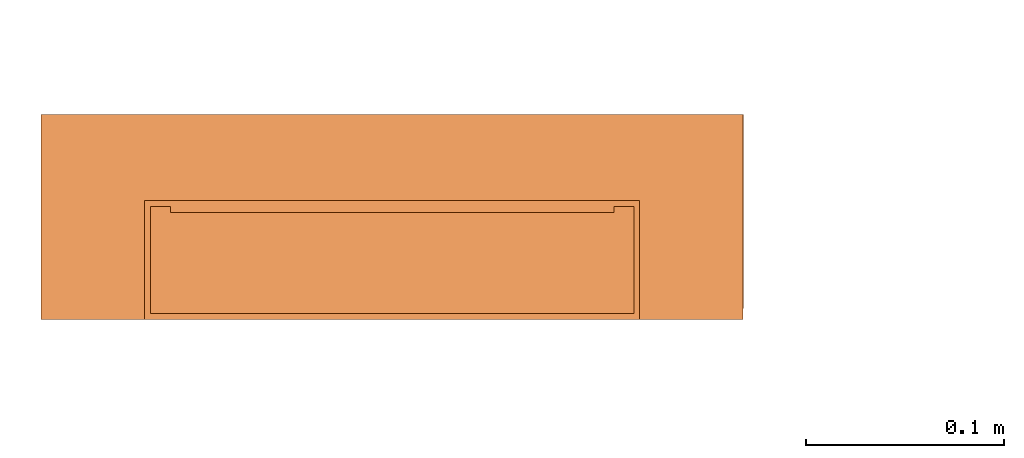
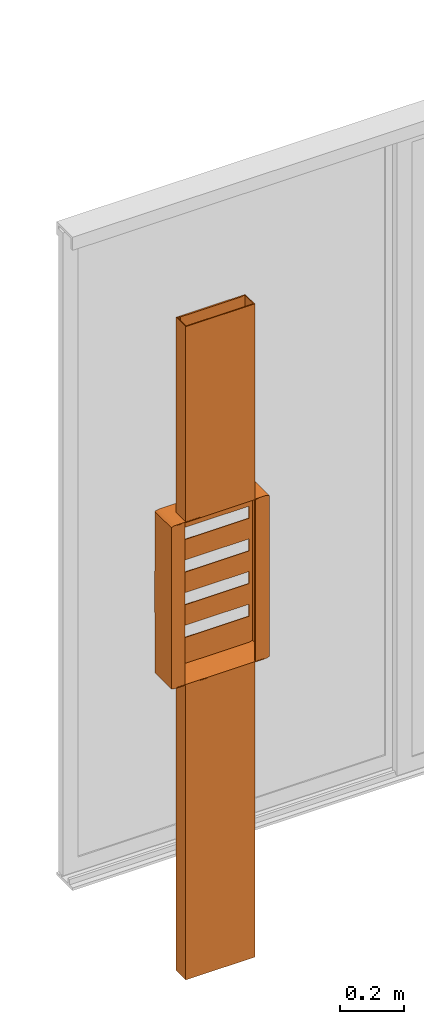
# One storey, part 3 of 3: 1 proxy.
"""IFC2X3 building model written with IfcOpenShell, lengths in metres."""

import ifcopenshell
import ifcopenshell.guid

model = None  # the IFC model being written
_history = None  # IfcOwnerHistory: only IFC2X3 demands one
_inside = {}  # id of a spatial element -> (the spatial element, [elements in it])
_under = {}  # id of a project, library or spatial element -> (it, [spatial elements below it])
_declared = {}  # id of a project -> (the project, [libraries it declares])
_typed = {}  # id of a type object -> (the type object, [elements of that type])
_made_of = {}  # id of a material, layer set ... -> (it, [elements and type objects made of it])


def new_model(schema):
    """Start an empty IFC model of exactly this schema.

    Asked for "IFC4X3", IfcOpenShell would pick the latest addendum, in which some entities
    have other attributes; the version numbers below select the first issue.
    IFC2X3 requires an IfcOwnerHistory on every rooted entity: one is made here for all.
    """
    global model, _history
    if schema == "IFC4X3":
        model = ifcopenshell.file(schema_version=(4, 3, 0, 0))
    else:
        model = ifcopenshell.file(schema=schema)
    _inside.clear()
    _under.clear()
    _declared.clear()
    _typed.clear()
    _made_of.clear()
    _history = None
    if model.schema == "IFC2X3":
        org = make("IfcOrganization", Name="unknown")
        user = make(
            "IfcPersonAndOrganization",
            ThePerson=make("IfcPerson", FamilyName="unknown"),
            TheOrganization=org,
        )
        app = make(
            "IfcApplication",
            ApplicationDeveloper=org,
            Version="unknown",
            ApplicationFullName="unknown",
            ApplicationIdentifier="unknown",
        )
        _history = make(
            "IfcOwnerHistory",
            OwningUser=user,
            OwningApplication=app,
            ChangeAction="ADDED",
            CreationDate=0,
        )
    return model


def make(cls, **values):
    """One entity of the class cls with the attributes given. An attribute that is None is left unset."""
    return model.create_entity(
        cls, **{name: value for name, value in values.items() if value is not None}
    )


def entity(cls, *values):
    """Any entity or typed value of the class cls, its attributes in the order of the schema. None: left unset."""
    e = model.create_entity(cls)
    for i, value in enumerate(values):
        if value is not None:
            e[i] = value
    return e


def rooted(cls, **values):
    """An entity with a GlobalId (a new one), such as an element, a storey or a relation."""
    return make(cls, GlobalId=ifcopenshell.guid.new(), OwnerHistory=_history, **values)


def si_unit(unit_type, name, prefix=None):
    """IfcSIUnit, for example si_unit("LENGTHUNIT", "METRE", prefix="MILLI")."""
    return make("IfcSIUnit", UnitType=unit_type, Prefix=prefix, Name=name)


def converted_unit(unit_type, name, factor, base, dimensions=None, offset=None):
    """IfcConversionBasedUnit, such as the inch: factor (a typed value) times the base unit."""
    return make(
        "IfcConversionBasedUnit"
        if offset is None
        else "IfcConversionBasedUnitWithOffset",
        ConversionOffset=offset,
        Dimensions=None
        if dimensions is None
        else entity("IfcDimensionalExponents", *dimensions),
        UnitType=unit_type,
        Name=name,
        ConversionFactor=make(
            "IfcMeasureWithUnit", ValueComponent=factor, UnitComponent=base
        ),
    )


def derived_unit(unit_type, elements):
    """IfcDerivedUnit: a product of units, each with its exponent."""
    return make(
        "IfcDerivedUnit",
        Elements=[
            make("IfcDerivedUnitElement", Unit=unit, Exponent=power)
            for unit, power in elements
        ],
        UnitType=unit_type,
    )


def assignment(units):
    """IfcUnitAssignment: the units of a project."""
    return None if units is None else make("IfcUnitAssignment", Units=units)


def point(xyz):
    """IfcCartesianPoint."""
    return None if xyz is None else make("IfcCartesianPoint", Coordinates=xyz)


def direction(xyz):
    """IfcDirection."""
    return None if xyz is None else make("IfcDirection", DirectionRatios=xyz)


def frame(location, z_axis=None, x_axis=None):
    """IfcAxis2Placement3D, a coordinate frame: its origin and axes. An axis left out is left unset."""
    return make(
        "IfcAxis2Placement3D",
        Location=point(location),
        Axis=direction(z_axis),
        RefDirection=direction(x_axis),
    )


def origin():
    """The frame at (0, 0, 0) with its axes left unset."""
    return frame((0.0, 0.0, 0.0))


def place(relative_to, where):
    """IfcLocalPlacement: puts the frame where relative to a parent placement (None: the world)."""
    return make(
        "IfcLocalPlacement", PlacementRelTo=relative_to, RelativePlacement=where
    )


def context(
    kind, dimensions, precision=None, world=None, true_north=None, identifier=None
):
    """IfcGeometricRepresentationContext, for example the 3D "Model" context."""
    return make(
        "IfcGeometricRepresentationContext",
        ContextIdentifier=identifier,
        ContextType=kind,
        CoordinateSpaceDimension=dimensions,
        Precision=precision,
        WorldCoordinateSystem=world,
        TrueNorth=true_north,
    )


def subcontext(parent, identifier, kind, view, scale=None):
    """IfcGeometricRepresentationSubContext, for example "Body" below "Model"."""
    return make(
        "IfcGeometricRepresentationSubContext",
        ContextIdentifier=identifier,
        ContextType=kind,
        ParentContext=parent,
        TargetScale=scale,
        TargetView=view,
    )


def project(units=None, contexts=None):
    """IfcProject with its units and contexts."""
    return rooted(
        "IfcProject",
        Name="project",
        RepresentationContexts=contexts,
        UnitsInContext=assignment(units),
    )


def spatial(cls, under=None, at=None, **own):
    """A site, building, storey or space (cls), placed at a placement, below another one or the project."""
    s = rooted(cls, ObjectPlacement=at, **own)
    if under is not None:
        _under.setdefault(under.id(), (under, []))[1].append(s)
    return s


def faces_of(points, faces, orient=None, outer=None):
    """IfcFace entities. A face is a list of loops; a loop is a list of indices into points, from 0.

    orient and outer hold one flag for each loop. By default every Orientation is true, the
    first loop of a face is its IfcFaceOuterBound and the others are IfcFaceBound.
    """
    made = []
    for i, loops in enumerate(faces):
        bounds = []
        for j, loop in enumerate(loops):
            is_outer = j == 0 if outer is None else outer[i][j]
            bounds.append(
                make(
                    "IfcFaceOuterBound" if is_outer else "IfcFaceBound",
                    Bound=make("IfcPolyLoop", Polygon=[points[k] for k in loop]),
                    Orientation=True if orient is None else orient[i][j],
                )
            )
        made.append(make("IfcFace", Bounds=bounds))
    return made


def faceted_brep(points, faces, orient=None, outer=None, voids=None):
    """IfcFacetedBrep: a solid bounded by flat faces; with voids (closed shells), ...WithVoids."""
    shared = [point(p) for p in points]
    hull = make("IfcClosedShell", CfsFaces=faces_of(shared, faces, orient, outer))
    if voids is None:
        return make("IfcFacetedBrep", Outer=hull)
    return make(
        "IfcFacetedBrepWithVoids",
        Outer=hull,
        Voids=[
            make(cls, CfsFaces=faces_of(shared, fs, o, b)) for cls, fs, o, b in voids
        ],
    )


def shape(context_of_items, identifier, shape_type, items):
    """IfcShapeRepresentation: the items that make up one representation, for example the "Body"."""
    return make(
        "IfcShapeRepresentation",
        ContextOfItems=context_of_items,
        RepresentationIdentifier=identifier,
        RepresentationType=shape_type,
        Items=items,
    )


def source(mapping_origin, context_of_items, identifier, shape_type, items):
    """IfcRepresentationMap: a shape defined once, which mapped items show again and again."""
    return make(
        "IfcRepresentationMap",
        MappingOrigin=mapping_origin,
        MappedRepresentation=shape(context_of_items, identifier, shape_type, items),
    )


def transform(
    local_origin,
    x_axis=None,
    y_axis=None,
    z_axis=None,
    scale=None,
    scale2=None,
    scale3=None,
    uniform=True,
):
    """IfcCartesianTransformationOperator3D, or its non-uniform kind. x_axis, y_axis, z_axis: its Axis1, 2, 3."""
    if uniform:
        return make(
            "IfcCartesianTransformationOperator3D",
            Axis1=direction(x_axis),
            Axis2=direction(y_axis),
            LocalOrigin=point(local_origin),
            Scale=scale,
            Axis3=direction(z_axis),
        )
    return make(
        "IfcCartesianTransformationOperator3DnonUniform",
        Axis1=direction(x_axis),
        Axis2=direction(y_axis),
        LocalOrigin=point(local_origin),
        Scale=scale,
        Axis3=direction(z_axis),
        Scale2=scale2,
        Scale3=scale3,
    )


def mapped(mapping_source, mapping_target):
    """IfcMappedItem: shows the shape of a source again, moved by a transform."""
    return make(
        "IfcMappedItem", MappingSource=mapping_source, MappingTarget=mapping_target
    )


def material(Name=None, Category=None):
    """IfcMaterial."""
    return make("IfcMaterial", Name=Name, Category=Category)


def made_of(thing, what):
    """Note that an element or type object is made of a material, layer set ...; save() writes the relation."""
    if what is not None:
        _made_of.setdefault(what.id(), (what, []))[1].append(thing)
    return thing


def type_object(cls, material=None, **own):
    """A type object (cls), such as IfcWallType, which elements share."""
    return made_of(rooted(cls, **own), material)


def type_shapes(of_type, sources):
    """Give a type object the sources (RepresentationMaps) that its elements show as mapped items."""
    of_type.RepresentationMaps = sources


def element(
    cls,
    number,
    at=None,
    inside=None,
    cuts=None,
    type_object=None,
    material=None,
    context=None,
    identifier="Body",
    shape_type=None,
    held_by="IfcProductDefinitionShape",
    body=None,
    shapes=None,
    **own,
):
    """One element of the class cls, such as IfcWall. Its Tag is "e" and its number.

    at: its placement. inside: the storey or other place that contains it. cuts: it is an
    opening in that element (IfcRelVoidsElement). A single representation is given by context,
    identifier, shape_type and body (its items); several are given by shapes. held_by: the class
    of the entity that holds the representations. save() writes the other relations.
    """
    e = rooted(cls, Tag="e%d" % number, ObjectPlacement=at, **own)
    if body is not None:
        shapes = [shape(context, identifier, shape_type, body)]
    if shapes is not None:
        e.Representation = make(held_by, Representations=shapes)
    if inside is not None:
        _inside.setdefault(inside.id(), (inside, []))[1].append(e)
    if cuts is not None:
        rooted(
            "IfcRelVoidsElement", RelatingBuildingElement=cuts, RelatedOpeningElement=e
        )
    if type_object is not None:
        _typed.setdefault(type_object.id(), (type_object, []))[1].append(e)
    return made_of(e, material)


def aggregate(whole, parts):
    """IfcRelAggregates: a whole, such as a stair, and the parts it consists of."""
    return rooted("IfcRelAggregates", RelatingObject=whole, RelatedObjects=parts)


def save(model, path):
    """Write the relations noted so far, then the file.

    IfcRelAggregates (storeys below a building ...), IfcRelContainedInSpatialStructure (elements
    in a storey), IfcRelDefinesByType, IfcRelAssociatesMaterial and IfcRelDeclares: one each for
    every whole, place, type object, material and project.
    """
    for whole, parts in _under.values():
        aggregate(whole, parts)
    for where, things in _inside.values():
        rooted(
            "IfcRelContainedInSpatialStructure",
            RelatedElements=things,
            RelatingStructure=where,
        )
    for kind, things in _typed.values():
        rooted("IfcRelDefinesByType", RelatedObjects=things, RelatingType=kind)
    for what, things in _made_of.values():
        rooted("IfcRelAssociatesMaterial", RelatedObjects=things, RelatingMaterial=what)
    for by, libraries in _declared.values():
        rooted("IfcRelDeclares", RelatingContext=by, RelatedDefinitions=libraries)
    model.write(path)


model = new_model("IFC2X3")

# Units and contexts
model_context = context("Model", 3, precision=1e-05, world=origin(), true_north=direction((6.123031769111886e-17, 1.0)))
body_context = subcontext(model_context, "Body", "Model", "MODEL_VIEW")
ifc_project = project(units=[si_unit("LENGTHUNIT", "METRE"), si_unit("AREAUNIT", "SQUARE_METRE"), si_unit("VOLUMEUNIT", "CUBIC_METRE"), converted_unit("PLANEANGLEUNIT", "DEGREE", entity("IfcRatioMeasure", 0.017453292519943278), si_unit("PLANEANGLEUNIT", "RADIAN"), dimensions=[0, 0, 0, 0, 0, 0, 0]), si_unit("MASSUNIT", "GRAM", prefix="KILO"), derived_unit("MASSDENSITYUNIT", [(si_unit("MASSUNIT", "GRAM", prefix="KILO"), 1), (si_unit("LENGTHUNIT", "METRE"), -3)]), derived_unit("IONCONCENTRATIONUNIT", [(si_unit("MASSUNIT", "GRAM", prefix="KILO"), 1), (si_unit("LENGTHUNIT", "METRE"), -3)]), derived_unit("MOMENTOFINERTIAUNIT", [(si_unit("LENGTHUNIT", "METRE"), 4)]), si_unit("TIMEUNIT", "SECOND"), si_unit("FREQUENCYUNIT", "HERTZ"), si_unit("THERMODYNAMICTEMPERATUREUNIT", "DEGREE_CELSIUS"), derived_unit("THERMALTRANSMITTANCEUNIT", [(si_unit("MASSUNIT", "GRAM", prefix="KILO"), 1), (si_unit("THERMODYNAMICTEMPERATUREUNIT", "KELVIN"), -1), (si_unit("TIMEUNIT", "SECOND"), -3)]), derived_unit("THERMALCONDUCTANCEUNIT", [(si_unit("MASSUNIT", "GRAM", prefix="KILO"), 1), (si_unit("THERMODYNAMICTEMPERATUREUNIT", "KELVIN"), -1), (si_unit("TIMEUNIT", "SECOND"), -3), (si_unit("LENGTHUNIT", "METRE"), 1)]), derived_unit("VOLUMETRICFLOWRATEUNIT", [(si_unit("LENGTHUNIT", "METRE"), 3), (si_unit("TIMEUNIT", "SECOND"), -1)]), derived_unit("MASSFLOWRATEUNIT", [(si_unit("MASSUNIT", "GRAM", prefix="KILO"), 1), (si_unit("TIMEUNIT", "SECOND"), -1)]), derived_unit("ROTATIONALFREQUENCYUNIT", [(si_unit("TIMEUNIT", "SECOND"), -1)]), si_unit("ELECTRICCURRENTUNIT", "AMPERE"), si_unit("ELECTRICVOLTAGEUNIT", "VOLT"), si_unit("POWERUNIT", "WATT"), si_unit("FORCEUNIT", "NEWTON", prefix="KILO"), si_unit("ILLUMINANCEUNIT", "LUX"), si_unit("LUMINOUSFLUXUNIT", "LUMEN"), si_unit("LUMINOUSINTENSITYUNIT", "CANDELA"), derived_unit("USERDEFINED", [(si_unit("MASSUNIT", "GRAM", prefix="KILO"), -1), (si_unit("LENGTHUNIT", "METRE"), -2), (si_unit("TIMEUNIT", "SECOND"), 3), (si_unit("LUMINOUSFLUXUNIT", "LUMEN"), 1)]), derived_unit("USERDEFINED", [(si_unit("MASSUNIT", "GRAM", prefix="KILO"), 1), (si_unit("TIMEUNIT", "SECOND"), -3), (si_unit("LENGTHUNIT", "METRE"), 3), (si_unit("ELECTRICCURRENTUNIT", "AMPERE"), -2)]), derived_unit("SOUNDPOWERUNIT", [(si_unit("MASSUNIT", "GRAM", prefix="KILO"), 1), (si_unit("TIMEUNIT", "SECOND"), -3), (si_unit("LENGTHUNIT", "METRE"), 2)]), derived_unit("SOUNDPRESSUREUNIT", [(si_unit("MASSUNIT", "GRAM", prefix="KILO"), 1), (si_unit("LENGTHUNIT", "METRE"), -1), (si_unit("TIMEUNIT", "SECOND"), -2)]), derived_unit("LINEARVELOCITYUNIT", [(si_unit("LENGTHUNIT", "METRE"), 1), (si_unit("TIMEUNIT", "SECOND"), -1)]), si_unit("PRESSUREUNIT", "PASCAL"), derived_unit("USERDEFINED", [(si_unit("MASSUNIT", "GRAM", prefix="KILO"), 1), (si_unit("LENGTHUNIT", "METRE"), -2), (si_unit("TIMEUNIT", "SECOND"), -2)]), derived_unit("LINEARFORCEUNIT", [(si_unit("MASSUNIT", "GRAM", prefix="KILO"), 1), (si_unit("TIMEUNIT", "SECOND"), -2)]), derived_unit("PLANARFORCEUNIT", [(si_unit("MASSUNIT", "GRAM", prefix="KILO"), 1), (si_unit("LENGTHUNIT", "METRE"), -1), (si_unit("TIMEUNIT", "SECOND"), -2)]), derived_unit("SPECIFICHEATCAPACITYUNIT", [(si_unit("THERMODYNAMICTEMPERATUREUNIT", "KELVIN"), -1), (si_unit("LENGTHUNIT", "METRE"), 2), (si_unit("TIMEUNIT", "SECOND"), -2)]), derived_unit("HEATINGVALUEUNIT", [(si_unit("LENGTHUNIT", "METRE"), 2), (si_unit("TIMEUNIT", "SECOND"), -2)]), derived_unit("VAPORPERMEABILITYUNIT", [(si_unit("LENGTHUNIT", "METRE"), -1), (si_unit("TIMEUNIT", "SECOND"), 1)]), derived_unit("DYNAMICVISCOSITYUNIT", [(si_unit("MASSUNIT", "GRAM", prefix="KILO"), 1), (si_unit("TIMEUNIT", "SECOND"), -1), (si_unit("LENGTHUNIT", "METRE"), -1)]), derived_unit("THERMALEXPANSIONCOEFFICIENTUNIT", [(si_unit("THERMODYNAMICTEMPERATUREUNIT", "KELVIN"), -1)]), derived_unit("MODULUSOFELASTICITYUNIT", [(si_unit("MASSUNIT", "GRAM", prefix="KILO"), 1), (si_unit("LENGTHUNIT", "METRE"), -1), (si_unit("TIMEUNIT", "SECOND"), -2)]), derived_unit("ISOTHERMALMOISTURECAPACITYUNIT", [(si_unit("LENGTHUNIT", "METRE"), 3), (si_unit("MASSUNIT", "GRAM", prefix="KILO"), -1)]), derived_unit("MOISTUREDIFFUSIVITYUNIT", [(si_unit("TIMEUNIT", "SECOND"), -1), (si_unit("LENGTHUNIT", "METRE"), 2)])], contexts=[model_context])

# Site, building, storey, space
site_placement = place(None, frame((1.2553507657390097, -0.6266432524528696, -1.0397761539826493), z_axis=(0.0, 0.0, 1.0), x_axis=(-1.0, 0.0, 0.0)))
site = spatial("IfcSite", under=ifc_project, at=site_placement, Name="Default", CompositionType="ELEMENT")
building_placement = place(site_placement, origin())
building = spatial("IfcBuilding", under=site, at=building_placement, Name="MAISON D'HABITATION", CompositionType="ELEMENT")
storey_placement = place(building_placement, frame((0.0, 0.0, 1.0397761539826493)))
storey = spatial("IfcBuildingStorey", under=building, at=storey_placement, Name="site", CompositionType="ELEMENT", Elevation=1.0397761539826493)
space_placement = place(storey_placement, origin())
space = spatial("IfcSpace", under=storey, at=space_placement, Name="06", CompositionType="ELEMENT", InteriorOrExteriorSpace="INTERNAL")

# Proxy
ifc_material = material(Name="<Unnamed>")
building_element_proxy_type = type_object("IfcBuildingElementProxyType", Name="tableau electrique:tableau electrique", PredefinedType="NOTDEFINED", material=ifc_material)
shared_shape = source(origin(), body_context, "Body", "Brep", [
    faceted_brep([(-0.15925032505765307, -0.015799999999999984, 1.128218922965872), (-0.15925032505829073, 0.0, 1.1282189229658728), (0.0, 0.0, 1.1279884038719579), (0.0, -0.10350000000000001, 1.1279884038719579), (-0.15925038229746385, -0.10350000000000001, 1.128218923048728), (0.15925038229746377, -0.10350000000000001, 1.128218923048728), (0.15925032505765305, 0.0, 1.128218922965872), (0.1592503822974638, -0.015799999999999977, 1.128218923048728), (0.15925032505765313, -0.015799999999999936, 1.7527578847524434), (0.1592503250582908, 0.0, 1.7527578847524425), (0.0, 0.0, 1.7529884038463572), (0.0, -0.10349999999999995, 1.7529884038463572), (0.15925038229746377, -0.10349999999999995, 1.7527578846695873), (-0.15925032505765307, 0.0, 1.7527578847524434), (-0.15925038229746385, -0.015799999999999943, 1.7527578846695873), (-0.15925038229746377, -0.10349999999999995, 1.7527578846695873), (-3.6187750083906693e-06, 0.0, 1.1304884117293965), (-0.159246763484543, 0.0, 1.1307189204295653), (-0.159246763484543, -0.10100000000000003, 1.1307189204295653), (-3.618828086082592e-06, -0.10100000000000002, 1.1304884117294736), (0.15924676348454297, 0.0, 1.1307189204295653), (0.159246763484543, -0.101, 1.1307189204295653), (0.1592467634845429, -0.10099999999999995, 1.7502578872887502), (3.6188280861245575e-06, -0.10099999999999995, 1.7504883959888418), (3.618775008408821e-06, 0.0, 1.7504883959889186), (0.15924676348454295, 0.0, 1.7502578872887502), (-0.159246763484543, -0.10099999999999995, 1.7502578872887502), (-0.15924676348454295, 0.0, 1.7502578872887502), (-0.17499999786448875, -0.005349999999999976, 1.4404865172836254), (-0.17478844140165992, -0.005349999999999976, 1.1601430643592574), (-0.17728844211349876, -0.005349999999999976, 1.1601430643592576), (-0.17749999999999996, -0.005349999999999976, 1.4404884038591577), (-0.17728844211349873, -0.005349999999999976, 1.720833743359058), (-0.17478844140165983, -0.005349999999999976, 1.720833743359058), (0.17728844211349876, -0.005349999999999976, 1.720833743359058), (0.1774999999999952, -0.005349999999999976, 1.4404884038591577), (0.17728844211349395, -0.005349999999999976, 1.1601430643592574), (0.1747884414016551, -0.005349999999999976, 1.1601430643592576), (0.17500000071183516, -0.005349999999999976, 1.440486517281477), (0.1747884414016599, -0.005349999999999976, 1.720833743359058), (-0.17728844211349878, -0.015799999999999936, 1.1601430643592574), (-0.17726735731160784, -0.015799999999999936, 1.132202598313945), (-0.17726735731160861, -0.10349999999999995, 1.1322025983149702), (-0.17750000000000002, -0.10349999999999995, 1.4404884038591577), (0.17749999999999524, -0.10350000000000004, 1.440488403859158), (0.17726735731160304, -0.10350000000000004, 1.132202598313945), (0.1772673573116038, -0.015800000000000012, 1.1322025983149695), (0.17728844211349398, -0.015800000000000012, 1.1601430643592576), (0.17728844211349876, -0.015799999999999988, 1.7208337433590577), (0.1772673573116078, -0.015799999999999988, 1.7487742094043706), (0.1772673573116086, -0.10350000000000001, 1.7487742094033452), (-0.17728844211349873, -0.015799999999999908, 1.7208337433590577), (-0.17726735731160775, -0.10349999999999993, 1.7487742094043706), (-0.17726735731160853, -0.015799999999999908, 1.7487742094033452), (-0.17499999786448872, -0.10099999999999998, 1.440486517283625), (-0.174768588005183, -0.10099999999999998, 1.1338343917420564), (-0.174768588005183, -0.015799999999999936, 1.1338343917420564), (-0.17478844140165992, -0.015799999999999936, 1.1601430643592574), (0.17478844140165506, -0.015800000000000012, 1.1601430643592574), (0.1747685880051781, -0.015800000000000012, 1.1338343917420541), (0.1747685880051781, -0.10100000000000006, 1.1338343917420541), (0.17499999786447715, -0.10100000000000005, 1.4404865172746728), (0.17478844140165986, -0.015799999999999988, 1.7208337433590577), (0.1747685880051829, -0.10100000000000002, 1.7471424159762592), (0.1747685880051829, -0.015799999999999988, 1.7471424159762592), (-0.17478844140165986, -0.015799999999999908, 1.720833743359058), (-0.1747685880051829, -0.10099999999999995, 1.7471424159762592), (-0.1747685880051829, -0.015799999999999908, 1.7471424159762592), (-0.16847498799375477, -0.1035, 1.7517434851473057), (-0.16847496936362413, -0.01579999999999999, 1.7517434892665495), (0.1684749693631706, -0.01579999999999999, 1.7517434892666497), (0.1684749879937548, -0.1035, 1.7517434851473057), (0.1684749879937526, -0.1035, 1.1292333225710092), (0.16847496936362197, -0.015799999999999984, 1.1292333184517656), (-0.16847496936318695, -0.015799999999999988, 1.1292333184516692), (-0.16847498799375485, -0.1035, 1.1292333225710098), (-0.1671630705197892, -0.015799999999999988, 1.1315115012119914), (-0.15925032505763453, -0.015799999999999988, 1.1307189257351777), (0.16716307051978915, -0.015799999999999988, 1.749465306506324), (0.15925032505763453, -0.015799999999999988, 1.7502578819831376), (0.15925032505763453, -0.015799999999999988, 1.1307189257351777), (0.16716307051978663, -0.015799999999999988, 1.131511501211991), (-0.15925032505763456, -0.015799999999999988, 1.7502578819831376), (-0.16716307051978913, -0.015799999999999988, 1.749465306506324), (-0.16199999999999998, -0.10099999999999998, 1.2298384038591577), (-0.16716132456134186, -0.10099999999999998, 1.1315111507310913), (-0.16199999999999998, -0.10099999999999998, 1.2761384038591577), (-0.16199999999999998, -0.10099999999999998, 1.3548384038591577), (-0.16199999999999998, -0.10099999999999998, 1.4011384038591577), (-0.16199999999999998, -0.10099999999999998, 1.4798384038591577), (-0.16199999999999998, -0.10099999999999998, 1.5261384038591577), (-0.16199999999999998, -0.10099999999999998, 1.6048384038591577), (-0.16199999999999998, -0.10099999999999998, 1.6511384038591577), (-0.16716132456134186, -0.10099999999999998, 1.7494656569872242), (0.16199999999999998, -0.10099999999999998, 1.6511384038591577), (0.16716132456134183, -0.10099999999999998, 1.7494656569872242), (0.16199999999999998, -0.10099999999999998, 1.6048384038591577), (0.16199999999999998, -0.10099999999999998, 1.5261384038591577), (0.16199999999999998, -0.10099999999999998, 1.4798384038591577), (0.16199999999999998, -0.10099999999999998, 1.4011384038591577), (0.16199999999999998, -0.10099999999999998, 1.3548384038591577), (0.16199999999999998, -0.10099999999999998, 1.2761384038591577), (0.16199999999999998, -0.10099999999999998, 1.2298384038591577), (0.1671613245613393, -0.10099999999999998, 1.1315111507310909), (-0.16199999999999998, -0.1035, 1.2298384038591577), (-0.16199999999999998, -0.1035, 1.2761384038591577), (0.1620000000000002, -0.1035, 1.2298384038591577), (-0.16199999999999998, -0.1035, 1.3548384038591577), (0.16199999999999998, -0.1035, 1.3548384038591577), (0.16199999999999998, -0.1035, 1.2761384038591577), (0.16199999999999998, -0.1035, 1.4011384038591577), (0.16199999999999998, -0.1035, 1.4798384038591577), (0.16199999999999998, -0.1035, 1.5261384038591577), (0.16199999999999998, -0.1035, 1.6048384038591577), (0.16199999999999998, -0.1035, 1.6511384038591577), (-0.16199999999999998, -0.1035, 1.6511384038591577), (-0.16199999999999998, -0.1035, 1.6048384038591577), (-0.16199999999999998, -0.1035, 1.4011384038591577), (-0.16199999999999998, -0.1035, 1.5261384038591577), (-0.16199999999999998, -0.1035, 1.4798384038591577)], [[[0, 1, 2, 3, 4]], [[5, 3, 2, 6, 7]], [[8, 9, 10, 11, 12]], [[10, 13, 14, 15, 11]], [[16, 17, 18, 19]], [[20, 16, 19, 21]], [[22, 23, 24, 25]], [[23, 26, 27, 24]], [[28, 29, 30, 31, 32, 33]], [[34, 35, 36, 37, 38, 39]], [[24, 27, 13, 10, 9, 25]], [[17, 16, 20, 6, 2, 1]], [[40, 41, 42, 43, 31, 30]], [[44, 45, 46, 47, 36, 35]], [[35, 34, 48, 49, 50, 44]], [[51, 32, 31, 43, 52, 53]], [[54, 55, 56, 57, 29, 28]], [[58, 59, 60, 61]], [[38, 58, 61]], [[58, 38, 37]], [[62, 39, 38]], [[62, 63, 64]], [[62, 61, 63]], [[61, 62, 38]], [[28, 33, 65, 54]], [[66, 54, 65]], [[67, 66, 65]], [[52, 68, 53]], [[53, 68, 69]], [[69, 15, 14]], [[15, 69, 68]], [[12, 70, 8]], [[70, 12, 71]], [[71, 50, 49]], [[71, 49, 70]], [[46, 45, 72]], [[46, 72, 73]], [[73, 5, 7]], [[5, 73, 72]], [[0, 4, 74]], [[74, 4, 75]], [[75, 42, 41]], [[75, 41, 74]], [[0, 74, 41, 40, 57, 56, 76, 77]], [[48, 62, 64, 78, 79, 8, 70, 49]], [[46, 73, 7, 80, 81, 59, 58, 47]], [[82, 83, 67, 65, 51, 53, 69, 14]], [[17, 1, 0]], [[0, 77, 17]], [[40, 30, 29, 57]], [[58, 37, 36, 47]], [[8, 25, 9]], [[25, 8, 79]], [[34, 39, 62, 48]], [[33, 32, 51, 65]], [[80, 6, 20]], [[6, 80, 7]], [[13, 27, 82]], [[82, 14, 13]], [[18, 55, 84]], [[18, 85, 55]], [[18, 84, 19]], [[55, 86, 84]], [[86, 55, 54]], [[87, 86, 54]], [[88, 87, 54]], [[89, 88, 54]], [[89, 54, 90]], [[54, 91, 90]], [[54, 66, 91]], [[92, 91, 66]], [[26, 92, 66]], [[66, 93, 26]], [[23, 92, 26]], [[94, 92, 23]], [[23, 22, 94]], [[94, 22, 63]], [[63, 22, 95]], [[63, 96, 94]], [[61, 96, 63]], [[96, 61, 97]], [[97, 61, 98]], [[98, 61, 99]], [[100, 99, 61]], [[61, 101, 100]], [[61, 60, 101]], [[102, 101, 60]], [[21, 102, 60]], [[103, 21, 60]], [[21, 19, 102]], [[84, 102, 19]], [[100, 101, 86]], [[87, 100, 86]], [[88, 98, 99]], [[89, 98, 88]], [[90, 91, 97]], [[97, 91, 96]], [[104, 42, 4]], [[104, 105, 42]], [[3, 104, 4]], [[104, 3, 106]], [[43, 42, 105]], [[43, 105, 107]], [[105, 108, 107]], [[105, 109, 108]], [[108, 109, 44]], [[45, 109, 106]], [[109, 45, 44]], [[44, 110, 108]], [[110, 44, 111]], [[111, 44, 112]], [[112, 44, 113]], [[50, 113, 44]], [[114, 113, 50]], [[50, 12, 114]], [[71, 12, 50]], [[114, 12, 11]], [[114, 11, 115]], [[15, 115, 11]], [[52, 115, 15]], [[15, 68, 52]], [[52, 116, 115]], [[116, 52, 43]], [[43, 107, 117]], [[118, 116, 43]], [[118, 43, 119]], [[43, 117, 119]], [[117, 111, 119]], [[112, 116, 118]], [[113, 116, 112]], [[110, 111, 117]], [[42, 75, 4]], [[106, 3, 5]], [[45, 106, 5]], [[45, 5, 72]], [[102, 84, 104, 106]], [[105, 104, 84, 86]], [[117, 107, 87, 88]], [[118, 119, 89, 90]], [[115, 116, 91, 92]], [[101, 102, 106, 109]], [[99, 100, 108, 110]], [[97, 98, 111, 112]], [[94, 96, 113, 114]], [[105, 86, 101, 109]], [[117, 88, 99, 110]], [[87, 107, 108, 100]], [[118, 90, 97, 112]], [[89, 119, 111, 98]], [[115, 92, 94, 114]], [[91, 116, 113, 96]]]),
    faceted_brep([(0.15925038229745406, -0.01579999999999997, 1.1601430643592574), (0.1592503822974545, -0.01579999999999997, 1.128218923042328), (0.1684749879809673, -0.01579999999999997, 1.1292333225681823), (0.17726735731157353, -0.01579999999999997, 1.1322025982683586), (0.17728844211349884, -0.01579999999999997, 1.1601430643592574), (0.15925038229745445, -0.01579999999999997, 1.7527578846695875), (0.15925038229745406, -0.015799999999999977, 1.720833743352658), (0.17728844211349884, -0.015799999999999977, 1.720833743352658), (0.17726735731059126, -0.015799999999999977, 1.7487742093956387), (0.16847498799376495, -0.01579999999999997, 1.7517434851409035), (0.15925038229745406, -0.005349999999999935, 1.1601430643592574), (0.17728844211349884, -0.005349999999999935, 1.1601430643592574), (0.17726735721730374, -0.005349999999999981, 1.7487742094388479), (0.17382914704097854, -0.005349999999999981, 1.750189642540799), (0.170281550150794, -0.005349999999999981, 1.7513028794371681), (0.16665107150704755, -0.005349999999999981, 1.7521056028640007), (0.16296483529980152, -0.005349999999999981, 1.7525918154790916), (0.15925038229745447, 0.0, 1.7527578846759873), (0.1592503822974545, -0.005349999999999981, 1.7527578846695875), (0.15925038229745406, -0.005349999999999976, 1.720833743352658), (0.17728844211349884, -0.005349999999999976, 1.720833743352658), (0.17728844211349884, 0.0, 1.1601430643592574), (0.1772673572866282, 0.0, 1.1322025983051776), (0.1684749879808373, 0.0, 1.1292333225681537), (0.15925038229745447, 0.0, 1.128218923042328), (0.15925038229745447, 0.0, 1.1312189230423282), (0.12738844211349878, 0.0, 1.1312189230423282), (0.12738844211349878, 0.0, 1.7497578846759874), (0.15925038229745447, 0.0, 1.7497578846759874), (0.16847498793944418, 0.0, 1.751743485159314), (0.1772673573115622, 0.0, 1.7487742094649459), (0.17728844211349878, 0.0, 1.720833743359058), (0.15925038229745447, -0.005349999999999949, 1.1312189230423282), (0.12738844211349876, -0.005349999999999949, 1.1312189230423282), (0.1273884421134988, -0.005350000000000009, 1.7497578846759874), (0.15925038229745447, -0.005349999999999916, 1.7497578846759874)], [[[0, 1, 2, 3, 4]], [[5, 6, 7, 8, 9]], [[10, 0, 4, 11]], [[12, 13, 8]], [[9, 13, 14]], [[13, 9, 8]], [[15, 16, 9]], [[16, 5, 9]], [[5, 16, 17, 18]], [[15, 9, 14]], [[7, 6, 19, 20]], [[21, 22, 23, 24, 25, 26, 27, 28, 17, 29, 30, 31]], [[32, 33, 26, 25]], [[26, 33, 34, 27]], [[28, 27, 34, 35]], [[17, 16, 29]], [[16, 15, 29]], [[13, 12, 30]], [[14, 13, 29]], [[14, 29, 15]], [[29, 13, 30]], [[20, 11, 21, 31]], [[10, 11, 20, 19, 35, 34, 33, 32]], [[8, 7, 20]], [[8, 20, 12]], [[12, 31, 30]], [[31, 12, 20]], [[35, 19, 6, 5, 18, 17, 28]], [[32, 25, 24, 1, 0, 10]], [[11, 22, 21]], [[4, 3, 11]], [[22, 11, 3]], [[1, 24, 23, 2]], [[23, 22, 3]], [[23, 3, 2]]]),
    faceted_brep([(-0.15925038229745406, -0.005349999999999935, 1.1601430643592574), (-0.17728844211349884, -0.005349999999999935, 1.1601430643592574), (-0.17728844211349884, -0.015799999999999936, 1.1601430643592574), (-0.15925038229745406, -0.015799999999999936, 1.1601430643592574), (-0.17726735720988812, -0.01579999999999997, 1.1322025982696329), (-0.16847498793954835, -0.01579999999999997, 1.1292333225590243), (-0.15925038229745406, -0.01579999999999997, 1.128218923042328), (-0.17726735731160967, -0.01579999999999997, 1.748774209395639), (-0.17728844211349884, -0.015799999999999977, 1.720833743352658), (-0.15925038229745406, -0.015799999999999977, 1.720833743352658), (-0.15925038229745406, -0.01579999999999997, 1.7527578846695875), (-0.16847498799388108, -0.01579999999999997, 1.7517434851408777), (-0.17728844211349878, -0.005349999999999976, 1.720833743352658), (-0.15925038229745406, -0.005349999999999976, 1.720833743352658), (-0.15925038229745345, -0.0053499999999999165, 1.7527578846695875), (-0.15925038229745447, 0.0, 1.7527578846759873), (-0.16296483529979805, -0.005349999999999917, 1.7525918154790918), (-0.16665107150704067, -0.005349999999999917, 1.752105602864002), (-0.17028155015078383, -0.005349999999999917, 1.7513028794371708), (-0.17382914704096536, -0.005349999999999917, 1.750189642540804), (-0.17726735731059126, -0.005349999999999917, 1.7487742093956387), (-0.15925038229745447, 0.0, 1.1312189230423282), (-0.15925038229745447, 0.0, 1.128218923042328), (-0.16847498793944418, 0.0, 1.1292333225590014), (-0.1772673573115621, 0.0, 1.1322025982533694), (-0.17728844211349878, 0.0, 1.1601430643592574), (-0.17728844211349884, 0.0, 1.720833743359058), (-0.17726735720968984, 0.0, 1.7487742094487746), (-0.16847498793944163, 0.0, 1.7517434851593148), (-0.15925038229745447, 0.0, 1.7497578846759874), (-0.12738844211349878, 0.0, 1.7497578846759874), (-0.12738844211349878, 0.0, 1.1312189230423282), (-0.15925038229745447, -0.005349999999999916, 1.7497578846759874), (-0.12738844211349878, -0.005349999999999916, 1.7497578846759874), (-0.12738844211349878, -0.005349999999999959, 1.1312189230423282), (-0.15925038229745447, -0.00534999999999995, 1.1312189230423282)], [[[0, 1, 2, 3]], [[2, 4, 5, 6, 3]], [[7, 8, 9, 10, 11]], [[9, 8, 12, 13]], [[14, 15, 16, 10]], [[11, 16, 17]], [[16, 11, 10]], [[18, 19, 11]], [[19, 7, 11]], [[7, 19, 20]], [[18, 11, 17]], [[21, 22, 23, 24, 25, 26, 27, 28, 15, 29, 30, 31]], [[26, 25, 1, 12]], [[27, 19, 28]], [[27, 20, 19]], [[19, 18, 28]], [[17, 16, 28]], [[17, 28, 18]], [[28, 16, 15]], [[30, 29, 32, 33]], [[33, 34, 31, 30]], [[34, 35, 21, 31]], [[13, 12, 1, 0, 35, 34, 33, 32]], [[10, 9, 13, 32, 29, 15, 14]], [[3, 6, 22, 21, 35, 0]], [[12, 8, 7, 20]], [[20, 27, 12]], [[26, 12, 27]], [[4, 23, 5]], [[23, 4, 24]], [[23, 22, 6, 5]], [[25, 24, 1]], [[1, 4, 2]], [[4, 1, 24]]]),
    faceted_brep([(-0.10500000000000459, -0.05699999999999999, 0.0), (-0.11200000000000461, -0.05699999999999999, 0.0), (-0.1120000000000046, -0.05403405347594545, 0.0), (0.11199999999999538, -0.05403405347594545, 0.0), (0.11199999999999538, -0.05699999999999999, 0.0), (0.10499999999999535, -0.05699999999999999, 0.0), (0.10499999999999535, -0.06, 0.0), (-0.10500000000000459, -0.06, 0.0), (-0.10500000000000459, -0.05699999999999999, 1.1279884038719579), (-0.11200000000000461, -0.05699999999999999, 1.1279884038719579), (-0.1120000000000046, -0.05403405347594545, 1.1279884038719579), (0.11199999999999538, -0.05403405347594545, 1.1279884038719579), (0.11199999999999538, -0.05699999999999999, 1.1279884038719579), (0.10499999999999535, -0.05699999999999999, 1.1279884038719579), (0.10499999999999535, -0.06, 1.1279884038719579), (-0.10500000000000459, -0.06, 1.1279884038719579)], [[[0, 1, 2, 3, 4, 5, 6, 7]], [[1, 0, 8, 9]], [[2, 1, 9, 10]], [[3, 2, 10, 11]], [[4, 3, 11, 12]], [[5, 4, 12, 13]], [[6, 5, 13, 14]], [[7, 6, 14, 15]], [[0, 7, 15, 8]], [[9, 8, 15, 14, 13, 12, 11, 10]]]),
    faceted_brep([(-0.10500000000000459, -0.05699999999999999, 2.500000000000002), (-0.10500000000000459, -0.06, 2.500000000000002), (0.10499999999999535, -0.06, 2.500000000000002), (0.10499999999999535, -0.05699999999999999, 2.500000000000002), (0.11199999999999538, -0.05699999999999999, 2.500000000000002), (0.11199999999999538, -0.05403405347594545, 2.500000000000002), (-0.11200000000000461, -0.05403405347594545, 2.500000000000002), (-0.11200000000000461, -0.05699999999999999, 2.500000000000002), (-0.10500000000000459, -0.05699999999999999, 1.7529884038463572), (-0.11200000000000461, -0.05699999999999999, 1.7529884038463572), (-0.1120000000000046, -0.05403405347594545, 1.7529884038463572), (0.11199999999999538, -0.05403405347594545, 1.7529884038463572), (0.11199999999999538, -0.05699999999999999, 1.7529884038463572), (0.10499999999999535, -0.05699999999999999, 1.7529884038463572), (0.10499999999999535, -0.06, 1.7529884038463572), (-0.10500000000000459, -0.06, 1.7529884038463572)], [[[0, 1, 2, 3, 4, 5, 6, 7]], [[8, 9, 10, 11, 12, 13, 14, 15]], [[1, 0, 8, 15]], [[2, 1, 15, 14]], [[3, 2, 14, 13]], [[4, 3, 13, 12]], [[5, 4, 12, 11]], [[6, 5, 11, 10]], [[7, 6, 10, 9]], [[0, 7, 9, 8]]]),
    faceted_brep([(0.12499999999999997, 0.0, 0.0), (0.12499999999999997, -0.06, 0.0), (0.10499999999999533, -0.060000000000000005, 0.0), (0.10499999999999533, -0.05699999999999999, 0.0), (0.12199999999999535, -0.05699999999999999, 0.0), (0.12199999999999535, -0.002999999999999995, 0.0), (-0.12200000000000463, -0.002999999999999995, 0.0), (-0.12200000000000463, -0.05699999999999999, 0.0), (-0.10500000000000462, -0.05699999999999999, 0.0), (-0.10500000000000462, -0.06, 0.0), (-0.125, -0.06, 0.0), (-0.125, 0.0, 0.0), (0.12499999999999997, 0.0, 1.1279884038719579), (0.12499999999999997, -0.06, 1.1279884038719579), (0.10499999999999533, -0.06, 1.1279884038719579), (-0.125, -0.06, 1.1279884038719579), (-0.125, 0.0, 1.1279884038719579), (0.12199999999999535, -0.05699999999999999, 1.1279884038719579), (0.12199999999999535, -0.002999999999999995, 1.1279884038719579), (0.10499999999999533, -0.05699999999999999, 1.1279884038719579), (-0.10500000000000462, -0.05699999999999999, 1.1279884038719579), (-0.10500000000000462, -0.06, 1.1279884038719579), (-0.12200000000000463, -0.05699999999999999, 1.1279884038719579), (-0.12200000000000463, -0.002999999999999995, 1.1279884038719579)], [[[0, 1, 2, 3, 4, 5, 6, 7, 8, 9, 10, 11]], [[1, 0, 12, 13]], [[2, 1, 13, 14]], [[11, 10, 15, 16]], [[0, 11, 16, 12]], [[5, 4, 17, 18]], [[4, 3, 19, 17]], [[3, 2, 14, 19]], [[9, 8, 20, 21]], [[8, 7, 22, 20]], [[7, 6, 23, 22]], [[6, 5, 18, 23]], [[13, 12, 16, 15, 21, 20, 22, 23, 18, 17, 19, 14]], [[10, 9, 21, 15]]]),
    faceted_brep([(0.12499999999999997, 0.0, 2.500000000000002), (-0.125, 0.0, 2.500000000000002), (-0.125, -0.06, 2.500000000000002), (-0.10500000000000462, -0.06, 2.500000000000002), (-0.10500000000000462, -0.05699999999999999, 2.500000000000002), (-0.12200000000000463, -0.05699999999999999, 2.500000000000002), (-0.12200000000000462, -0.002999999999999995, 2.500000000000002), (0.12199999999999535, -0.002999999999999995, 2.500000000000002), (0.12199999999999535, -0.05699999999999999, 2.500000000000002), (0.10499999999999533, -0.05699999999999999, 2.500000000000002), (0.10499999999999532, -0.06, 2.500000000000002), (0.12499999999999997, -0.06, 2.500000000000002), (0.12499999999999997, 0.0, 1.7529884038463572), (0.12499999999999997, -0.06, 1.7529884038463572), (0.10499999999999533, -0.06, 1.7529884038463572), (0.10499999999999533, -0.05699999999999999, 1.7529884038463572), (0.12199999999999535, -0.05699999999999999, 1.7529884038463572), (0.12199999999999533, -0.002999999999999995, 1.7529884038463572), (-0.12200000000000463, -0.002999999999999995, 1.7529884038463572), (-0.12200000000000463, -0.05699999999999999, 1.7529884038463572), (-0.10500000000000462, -0.05699999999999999, 1.7529884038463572), (-0.10500000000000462, -0.06, 1.7529884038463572), (-0.125, -0.06, 1.7529884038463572), (-0.125, 0.0, 1.7529884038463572)], [[[0, 1, 2, 3, 4, 5, 6, 7, 8, 9, 10, 11]], [[12, 13, 14, 15, 16, 17, 18, 19, 20, 21, 22, 23]], [[7, 6, 18, 17]], [[6, 5, 19, 18]], [[5, 4, 20, 19]], [[4, 3, 21, 20]], [[10, 9, 15, 14]], [[9, 8, 16, 15]], [[8, 7, 17, 16]], [[1, 0, 12, 23]], [[2, 1, 23, 22]], [[3, 2, 22, 21]], [[11, 10, 14, 13]], [[0, 11, 13, 12]]]),
])
type_shapes(building_element_proxy_type, [shared_shape])
proxy_placement = place(space_placement, frame((3.7921330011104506, -0.37381695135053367, 0.0)))
element("IfcBuildingElementProxy", 1, at=proxy_placement, inside=space, type_object=building_element_proxy_type, material=ifc_material, Name="tableau electrique:tableau electrique", ObjectType="tableau electrique:tableau electrique", context=body_context, shape_type="MappedRepresentation", body=[
    mapped(shared_shape, transform((0.0, 0.0, 0.0), scale=1.0)),
])

save(model, "model.ifc")
